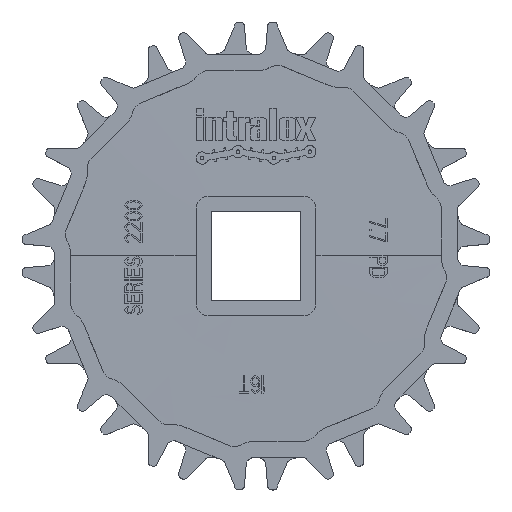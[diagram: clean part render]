
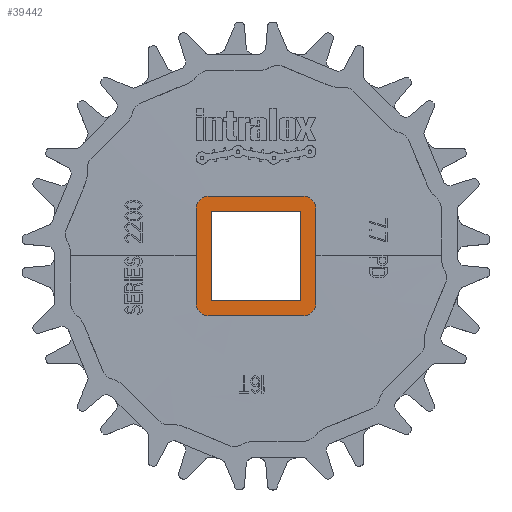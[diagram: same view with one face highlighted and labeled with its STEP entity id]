
A CAD part, top view. The second image highlights one B-rep face of the part: STEP entity #39442.
In plain terms, the highlighted planar face has unit normal (0, 0, 1).
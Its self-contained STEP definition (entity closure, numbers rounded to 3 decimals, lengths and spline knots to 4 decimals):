
#6925=DIRECTION('',(1.,0.,0.));
#6926=VECTOR('',#6925,1.56);
#6927=CARTESIAN_POINT('',(-0.78,-1.,0.5));
#6928=LINE('',#6927,#6926);
#6929=CARTESIAN_POINT('',(-0.78,-0.78,0.5));
#6930=DIRECTION('',(0.,0.,1.));
#6931=DIRECTION('',(-1.,0.,0.));
#6932=AXIS2_PLACEMENT_3D('',#6929,#6930,#6931);
#6934=DIRECTION('',(0.,-1.,0.));
#6935=VECTOR('',#6934,1.56);
#6936=CARTESIAN_POINT('',(-1.,0.78,0.5));
#6937=LINE('',#6936,#6935);
#6938=CARTESIAN_POINT('',(-0.78,0.78,0.5));
#6939=DIRECTION('',(0.,0.,1.));
#6940=DIRECTION('',(0.,1.,0.));
#6941=AXIS2_PLACEMENT_3D('',#6938,#6939,#6940);
#6943=DIRECTION('',(-1.,0.,0.));
#6944=VECTOR('',#6943,1.56);
#6945=CARTESIAN_POINT('',(0.78,1.,0.5));
#6946=LINE('',#6945,#6944);
#6947=CARTESIAN_POINT('',(0.78,0.78,0.5));
#6948=DIRECTION('',(0.,0.,1.));
#6949=DIRECTION('',(1.,0.,0.));
#6950=AXIS2_PLACEMENT_3D('',#6947,#6948,#6949);
#6952=DIRECTION('',(0.,1.,0.));
#6953=VECTOR('',#6952,1.56);
#6954=CARTESIAN_POINT('',(1.,-0.78,0.5));
#6955=LINE('',#6954,#6953);
#6956=CARTESIAN_POINT('',(0.78,-0.78,0.5));
#6957=DIRECTION('',(0.,0.,1.));
#6958=DIRECTION('',(0.,-1.,0.));
#6959=AXIS2_PLACEMENT_3D('',#6956,#6957,#6958);
#6961=DIRECTION('',(1.,0.,0.));
#6962=VECTOR('',#6961,1.5);
#6963=CARTESIAN_POINT('',(-0.75,-0.75,0.5));
#6964=LINE('',#6963,#6962);
#6965=DIRECTION('',(0.,1.,0.));
#6966=VECTOR('',#6965,1.5);
#6967=CARTESIAN_POINT('',(0.75,-0.75,0.5));
#6968=LINE('',#6967,#6966);
#6969=DIRECTION('',(-1.,0.,0.));
#6970=VECTOR('',#6969,1.5);
#6971=CARTESIAN_POINT('',(0.75,0.75,0.5));
#6972=LINE('',#6971,#6970);
#6973=DIRECTION('',(0.,-1.,0.));
#6974=VECTOR('',#6973,1.5);
#6975=CARTESIAN_POINT('',(-0.75,0.75,0.5));
#6976=LINE('',#6975,#6974);
#26163=CARTESIAN_POINT('',(-0.78,-1.,0.5));
#26164=CARTESIAN_POINT('',(0.78,-1.,0.5));
#26165=VERTEX_POINT('',#26163);
#26166=VERTEX_POINT('',#26164);
#26167=CARTESIAN_POINT('',(1.,-0.78,0.5));
#26168=VERTEX_POINT('',#26167);
#26169=CARTESIAN_POINT('',(1.,0.78,0.5));
#26170=VERTEX_POINT('',#26169);
#26171=CARTESIAN_POINT('',(0.78,1.,0.5));
#26172=VERTEX_POINT('',#26171);
#26173=CARTESIAN_POINT('',(-0.78,1.,0.5));
#26174=VERTEX_POINT('',#26173);
#26175=CARTESIAN_POINT('',(-1.,0.78,0.5));
#26176=VERTEX_POINT('',#26175);
#26177=CARTESIAN_POINT('',(-1.,-0.78,0.5));
#26178=VERTEX_POINT('',#26177);
#32033=CARTESIAN_POINT('',(-0.75,-0.75,0.5));
#32034=CARTESIAN_POINT('',(0.75,-0.75,0.5));
#32035=VERTEX_POINT('',#32033);
#32036=VERTEX_POINT('',#32034);
#32037=CARTESIAN_POINT('',(0.75,0.75,0.5));
#32038=VERTEX_POINT('',#32037);
#32039=CARTESIAN_POINT('',(-0.75,0.75,0.5));
#32040=VERTEX_POINT('',#32039);
#39417=CARTESIAN_POINT('',(0.,0.,0.5));
#39418=DIRECTION('',(0.,0.,1.));
#39419=DIRECTION('',(1.,0.,0.));
#39420=AXIS2_PLACEMENT_3D('',#39417,#39418,#39419);
#39421=PLANE('',#39420);
#39422=ORIENTED_EDGE('',*,*,#39175,.F.);
#39423=ORIENTED_EDGE('',*,*,#39208,.F.);
#39424=ORIENTED_EDGE('',*,*,#39407,.F.);
#39425=ORIENTED_EDGE('',*,*,#39379,.F.);
#39426=ORIENTED_EDGE('',*,*,#39351,.F.);
#39427=ORIENTED_EDGE('',*,*,#39323,.F.);
#39428=ORIENTED_EDGE('',*,*,#39293,.F.);
#39429=ORIENTED_EDGE('',*,*,#39264,.F.);
#39430=EDGE_LOOP('',(#39422,#39423,#39424,#39425,#39426,#39427,#39428,#39429));
#39431=FACE_OUTER_BOUND('',#39430,.F.);
#39433=ORIENTED_EDGE('',*,*,#39432,.T.);
#39435=ORIENTED_EDGE('',*,*,#39434,.T.);
#39437=ORIENTED_EDGE('',*,*,#39436,.T.);
#39439=ORIENTED_EDGE('',*,*,#39438,.T.);
#39440=EDGE_LOOP('',(#39433,#39435,#39437,#39439));
#39441=FACE_BOUND('',#39440,.F.);
#39442=ADVANCED_FACE('',(#39431,#39441),#39421,.T.);
#6933=CIRCLE('',#6932,0.22);
#6942=CIRCLE('',#6941,0.22);
#6951=CIRCLE('',#6950,0.22);
#6960=CIRCLE('',#6959,0.22);
#39175=EDGE_CURVE('',#26165,#26166,#6928,.T.);
#39208=EDGE_CURVE('',#26178,#26165,#6933,.T.);
#39264=EDGE_CURVE('',#26166,#26168,#6960,.T.);
#39293=EDGE_CURVE('',#26168,#26170,#6955,.T.);
#39323=EDGE_CURVE('',#26170,#26172,#6951,.T.);
#39351=EDGE_CURVE('',#26172,#26174,#6946,.T.);
#39379=EDGE_CURVE('',#26174,#26176,#6942,.T.);
#39407=EDGE_CURVE('',#26176,#26178,#6937,.T.);
#39432=EDGE_CURVE('',#32035,#32036,#6964,.T.);
#39434=EDGE_CURVE('',#32036,#32038,#6968,.T.);
#39436=EDGE_CURVE('',#32038,#32040,#6972,.T.);
#39438=EDGE_CURVE('',#32040,#32035,#6976,.T.);
